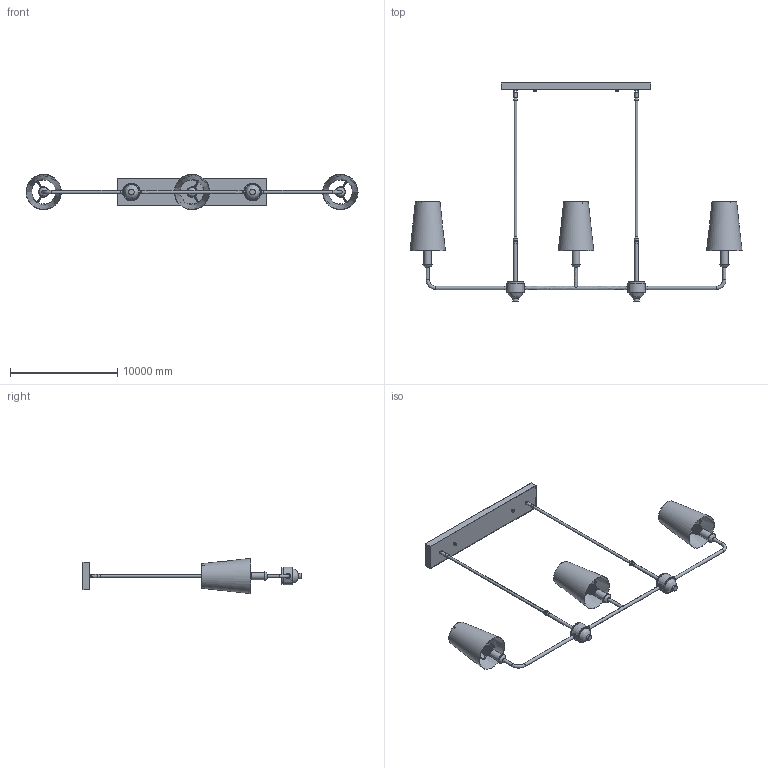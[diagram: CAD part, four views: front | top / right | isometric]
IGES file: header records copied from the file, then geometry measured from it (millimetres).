
Global section: file name: Pallas Linear Chandelier; native system: AutoCAD 2022 - 简体中文 (Simplified Chinese),62HAuto; preprocessor: desk Translation Framework DWG producer (atf_dwg_producer); organization: unknown; date: 20251212.154805; units: inch
Bounding box: 30988 x 20350.4 x 3297.58 mm (x, y, z)
Volume: 11070391151 mm3; surface area: 581065228.3 mm2
Topology: 64 solids, 64 shells, 464 faces, 1023 edges, 702 vertices
Faces by surface type: bspline 464
